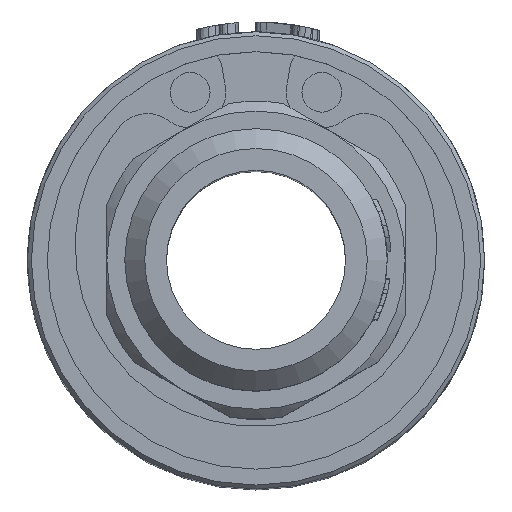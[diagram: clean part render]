
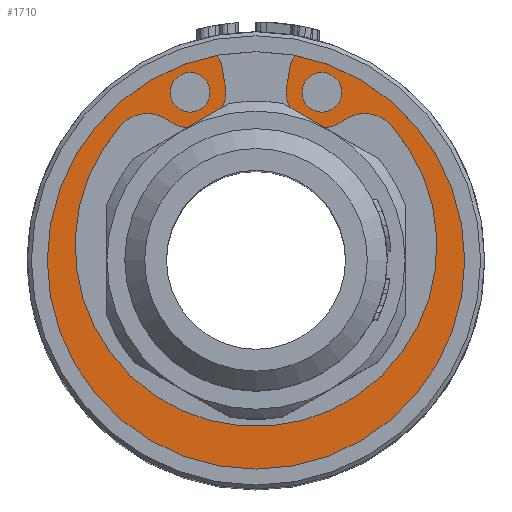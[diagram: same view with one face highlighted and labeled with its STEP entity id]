
A CAD part, top view. The second image highlights one B-rep face of the part: STEP entity #1710.
In plain terms, the highlighted planar face has unit normal (0, 0, 1).
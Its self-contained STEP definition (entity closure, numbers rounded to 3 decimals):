
#219=FACE_BOUND('',#4200,.T.);
#220=FACE_BOUND('',#4201,.T.);
#221=FACE_BOUND('',#4202,.T.);
#1710=ADVANCED_FACE('',(#219,#220,#221),#2327,.T.);
#2327=PLANE('',#20146);
#4200=EDGE_LOOP('',(#11195));
#4201=EDGE_LOOP('',(#11196,#11197,#11198,#11199,#11200,#11201,#11202,#11203,
#11204,#11205,#11206,#11207,#11208,#11209));
#4202=EDGE_LOOP('',(#11210));
#4627=CIRCLE('',#20115,11.);
#4628=CIRCLE('',#20120,6.6);
#4629=CIRCLE('',#20122,6.6);
#4630=CIRCLE('',#20124,1.793);
#4631=CIRCLE('',#20126,1.793);
#4632=CIRCLE('',#20128,1.793);
#4633=CIRCLE('',#20130,1.793);
#4634=CIRCLE('',#20132,9.1);
#4635=CIRCLE('',#20134,1.);
#4636=CIRCLE('',#20136,1.793);
#4637=CIRCLE('',#20139,1.793);
#4638=CIRCLE('',#20141,1.);
#4639=CIRCLE('',#20144,1.);
#4640=CIRCLE('',#20145,1.);
#11195=ORIENTED_EDGE('',*,*,#17622,.F.);
#11196=ORIENTED_EDGE('',*,*,#17621,.T.);
#11197=ORIENTED_EDGE('',*,*,#17619,.T.);
#11198=ORIENTED_EDGE('',*,*,#17594,.F.);
#11199=ORIENTED_EDGE('',*,*,#17613,.F.);
#11200=ORIENTED_EDGE('',*,*,#17616,.F.);
#11201=ORIENTED_EDGE('',*,*,#17614,.F.);
#11202=ORIENTED_EDGE('',*,*,#17602,.T.);
#11203=ORIENTED_EDGE('',*,*,#17606,.F.);
#11204=ORIENTED_EDGE('',*,*,#17603,.F.);
#11205=ORIENTED_EDGE('',*,*,#17611,.F.);
#11206=ORIENTED_EDGE('',*,*,#17607,.T.);
#11207=ORIENTED_EDGE('',*,*,#17610,.T.);
#11208=ORIENTED_EDGE('',*,*,#17599,.F.);
#11209=ORIENTED_EDGE('',*,*,#17617,.T.);
#11210=ORIENTED_EDGE('',*,*,#17623,.T.);
#14929=VERTEX_POINT('',#37649);
#14930=VERTEX_POINT('',#37650);
#14931=VERTEX_POINT('',#37658);
#14932=VERTEX_POINT('',#37660);
#14933=VERTEX_POINT('',#37664);
#14934=VERTEX_POINT('',#37666);
#14935=VERTEX_POINT('',#37670);
#14936=VERTEX_POINT('',#37671);
#14937=VERTEX_POINT('',#37678);
#14938=VERTEX_POINT('',#37679);
#14939=VERTEX_POINT('',#37688);
#14940=VERTEX_POINT('',#37692);
#14941=VERTEX_POINT('',#37698);
#14942=VERTEX_POINT('',#37702);
#14943=VERTEX_POINT('',#37708);
#14944=VERTEX_POINT('',#37710);
#17594=EDGE_CURVE('',#14929,#14930,#4627,.T.);
#17599=EDGE_CURVE('',#14932,#14931,#4628,.T.);
#17602=EDGE_CURVE('',#14933,#14934,#4629,.T.);
#17603=EDGE_CURVE('',#14935,#14936,#4630,.T.);
#17606=EDGE_CURVE('',#14936,#14934,#4631,.T.);
#17607=EDGE_CURVE('',#14937,#14938,#4632,.T.);
#17610=EDGE_CURVE('',#14938,#14931,#4633,.T.);
#17611=EDGE_CURVE('',#14937,#14935,#4634,.T.);
#17613=EDGE_CURVE('',#14939,#14929,#4635,.T.);
#17614=EDGE_CURVE('',#14933,#14940,#4636,.T.);
#17616=EDGE_CURVE('',#14940,#14939,#18681,.T.);
#17617=EDGE_CURVE('',#14932,#14941,#4637,.T.);
#17619=EDGE_CURVE('',#14942,#14930,#4638,.T.);
#17621=EDGE_CURVE('',#14941,#14942,#18684,.T.);
#17622=EDGE_CURVE('',#14943,#14943,#4639,.T.);
#17623=EDGE_CURVE('',#14944,#14944,#4640,.T.);
#18681=LINE('',#37695,#19520);
#18684=LINE('',#37705,#19523);
#19520=VECTOR('',#21806,1.);
#19523=VECTOR('',#21819,1.);
#20115=AXIS2_PLACEMENT_3D('',#37648,#21748,#21749);
#20120=AXIS2_PLACEMENT_3D('',#37661,#21762,#21763);
#20122=AXIS2_PLACEMENT_3D('',#37667,#21768,#21769);
#20124=AXIS2_PLACEMENT_3D('',#37669,#21772,#21773);
#20126=AXIS2_PLACEMENT_3D('',#37675,#21778,#21779);
#20128=AXIS2_PLACEMENT_3D('',#37677,#21782,#21783);
#20130=AXIS2_PLACEMENT_3D('',#37683,#21788,#21789);
#20132=AXIS2_PLACEMENT_3D('',#37685,#21792,#21793);
#20134=AXIS2_PLACEMENT_3D('',#37689,#21797,#21798);
#20136=AXIS2_PLACEMENT_3D('',#37691,#21801,#21802);
#20139=AXIS2_PLACEMENT_3D('',#37697,#21809,#21810);
#20141=AXIS2_PLACEMENT_3D('',#37701,#21814,#21815);
#20144=AXIS2_PLACEMENT_3D('',#37707,#21822,#21823);
#20145=AXIS2_PLACEMENT_3D('',#37709,#21824,#21825);
#20146=AXIS2_PLACEMENT_3D('',#37711,#21826,#21827);
#21748=DIRECTION('',(0.,0.,-1.));
#21749=DIRECTION('',(1.,0.,0.));
#21762=DIRECTION('',(0.,0.,1.));
#21763=DIRECTION('',(1.,0.,0.));
#21768=DIRECTION('',(0.,0.,-1.));
#21769=DIRECTION('',(-1.,0.,0.));
#21772=DIRECTION('',(0.,0.,1.));
#21773=DIRECTION('',(-1.,0.,0.));
#21778=DIRECTION('',(0.,0.,-1.));
#21779=DIRECTION('',(-1.,0.,0.));
#21782=DIRECTION('',(0.,0.,-1.));
#21783=DIRECTION('',(1.,0.,0.));
#21788=DIRECTION('',(0.,0.,1.));
#21789=DIRECTION('',(1.,0.,0.));
#21792=DIRECTION('',(0.,0.,1.));
#21793=DIRECTION('',(1.,0.,0.));
#21797=DIRECTION('',(0.,0.,-1.));
#21798=DIRECTION('',(-1.,0.,0.));
#21801=DIRECTION('',(0.,0.,-1.));
#21802=DIRECTION('',(-1.,0.,0.));
#21806=DIRECTION('',(0.174,0.985,0.));
#21809=DIRECTION('',(0.,0.,1.));
#21810=DIRECTION('',(1.,0.,0.));
#21814=DIRECTION('',(0.,0.,1.));
#21815=DIRECTION('',(1.,0.,0.));
#21819=DIRECTION('',(-0.174,0.985,0.));
#21822=DIRECTION('',(0.,0.,1.));
#21823=DIRECTION('',(1.,0.,0.));
#21824=DIRECTION('',(0.,0.,-1.));
#21825=DIRECTION('',(-1.,0.,0.));
#21826=DIRECTION('',(0.,0.,1.));
#21827=DIRECTION('',(1.,0.,0.));
#37648=CARTESIAN_POINT('',(0.,0.,26.5));
#37649=CARTESIAN_POINT('',(2.984,10.588,26.5));
#37650=CARTESIAN_POINT('',(-2.984,10.588,26.5));
#37658=CARTESIAN_POINT('',(-2.605,6.814,26.5));
#37660=CARTESIAN_POINT('',(-2.605,6.814,26.5));
#37661=CARTESIAN_POINT('',(0.,0.75,26.5));
#37664=CARTESIAN_POINT('',(2.605,6.814,26.5));
#37666=CARTESIAN_POINT('',(2.605,6.814,26.5));
#37667=CARTESIAN_POINT('',(0.,0.75,26.5));
#37669=CARTESIAN_POINT('',(5.469,5.596,26.5));
#37670=CARTESIAN_POINT('',(6.811,6.785,26.5));
#37671=CARTESIAN_POINT('',(4.391,7.029,26.5));
#37675=CARTESIAN_POINT('',(3.313,8.462,26.5));
#37677=CARTESIAN_POINT('',(-5.469,5.596,26.5));
#37678=CARTESIAN_POINT('',(-6.811,6.785,26.5));
#37679=CARTESIAN_POINT('',(-4.391,7.029,26.5));
#37683=CARTESIAN_POINT('',(-3.313,8.462,26.5));
#37685=CARTESIAN_POINT('',(0.,0.75,26.5));
#37688=CARTESIAN_POINT('',(1.728,9.799,26.5));
#37689=CARTESIAN_POINT('',(2.713,9.625,26.5));
#37691=CARTESIAN_POINT('',(3.313,8.462,26.5));
#37692=CARTESIAN_POINT('',(1.547,8.773,26.5));
#37695=CARTESIAN_POINT('',(0.,0.,26.5));
#37697=CARTESIAN_POINT('',(-3.313,8.462,26.5));
#37698=CARTESIAN_POINT('',(-1.547,8.773,26.5));
#37701=CARTESIAN_POINT('',(-2.713,9.625,26.5));
#37702=CARTESIAN_POINT('',(-1.728,9.799,26.5));
#37705=CARTESIAN_POINT('',(0.,0.,26.5));
#37707=CARTESIAN_POINT('',(-3.313,8.462,26.5));
#37708=CARTESIAN_POINT('',(-2.313,8.462,26.5));
#37709=CARTESIAN_POINT('',(3.313,8.462,26.5));
#37710=CARTESIAN_POINT('',(2.313,8.462,26.5));
#37711=CARTESIAN_POINT('',(0.,0.,26.5));
